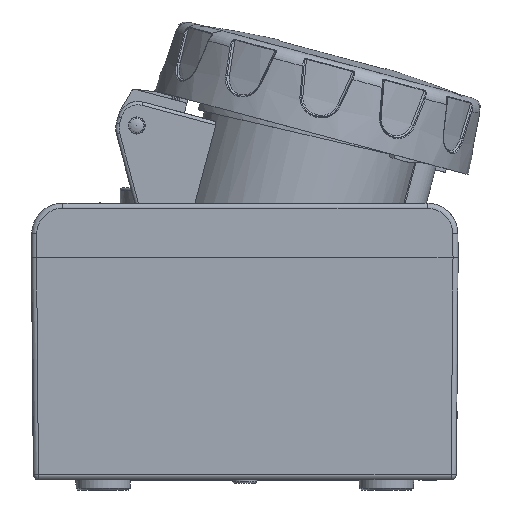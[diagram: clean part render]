
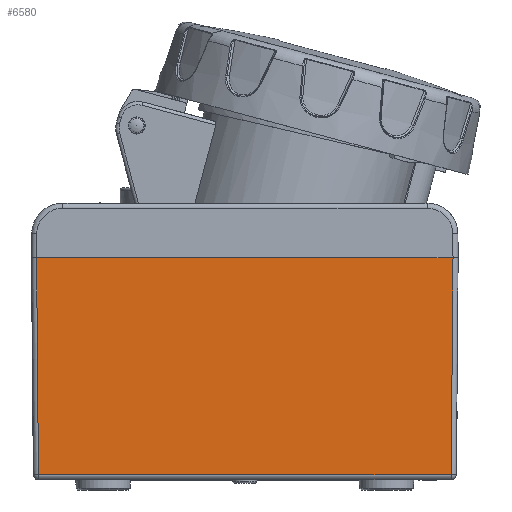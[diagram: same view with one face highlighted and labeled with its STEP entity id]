
A CAD part, left-side view. The second image highlights one B-rep face of the part: STEP entity #6580.
In plain terms, the highlighted planar face has unit normal (-1, 0, -0.009).
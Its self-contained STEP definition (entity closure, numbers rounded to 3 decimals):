
#6580=ADVANCED_FACE('',(#10407),#8627,.T.);
#8627=PLANE('',#48974);
#10407=FACE_OUTER_BOUND('',#13349,.T.);
#13349=EDGE_LOOP('',(#23334,#23335,#23336,#23337));
#23334=ORIENTED_EDGE('',*,*,#37995,.T.);
#23335=ORIENTED_EDGE('',*,*,#37996,.T.);
#23336=ORIENTED_EDGE('',*,*,#37997,.T.);
#23337=ORIENTED_EDGE('',*,*,#37990,.F.);
#32489=VERTEX_POINT('',#93688);
#32490=VERTEX_POINT('',#93690);
#32493=VERTEX_POINT('',#93699);
#32494=VERTEX_POINT('',#93701);
#37990=EDGE_CURVE('',#32489,#32490,#42206,.T.);
#37995=EDGE_CURVE('',#32489,#32493,#42208,.T.);
#37996=EDGE_CURVE('',#32493,#32494,#42209,.T.);
#37997=EDGE_CURVE('',#32494,#32490,#42210,.T.);
#42206=LINE('',#93689,#45167);
#42208=LINE('',#93698,#45169);
#42209=LINE('',#93700,#45170);
#42210=LINE('',#93702,#45171);
#45167=VECTOR('',#56284,1.);
#45169=VECTOR('',#56294,1.);
#45170=VECTOR('',#56295,1.);
#45171=VECTOR('',#56296,1.);
#48974=AXIS2_PLACEMENT_3D('',#93703,#56297,#56298);
#56284=DIRECTION('',(0.,-1.,0.));
#56294=DIRECTION('',(0.009,-0.009,-1.));
#56295=DIRECTION('',(0.,-1.,0.));
#56296=DIRECTION('',(-0.009,-0.009,1.));
#56297=DIRECTION('',(-1.,0.,-0.009));
#56298=DIRECTION('',(-0.009,0.,1.));
#93688=CARTESIAN_POINT('',(-68.,61.,0.));
#93689=CARTESIAN_POINT('',(-68.,62.5,0.));
#93690=CARTESIAN_POINT('',(-68.,-61.,0.));
#93698=CARTESIAN_POINT('',(-68.,61.,0.013));
#93699=CARTESIAN_POINT('',(-67.446,60.446,-63.513));
#93700=CARTESIAN_POINT('',(-67.446,-60.433,-63.513));
#93701=CARTESIAN_POINT('',(-67.446,-60.446,-63.513));
#93702=CARTESIAN_POINT('',(-67.991,-60.991,-1.078));
#93703=CARTESIAN_POINT('',(-68.,62.5,0.));
